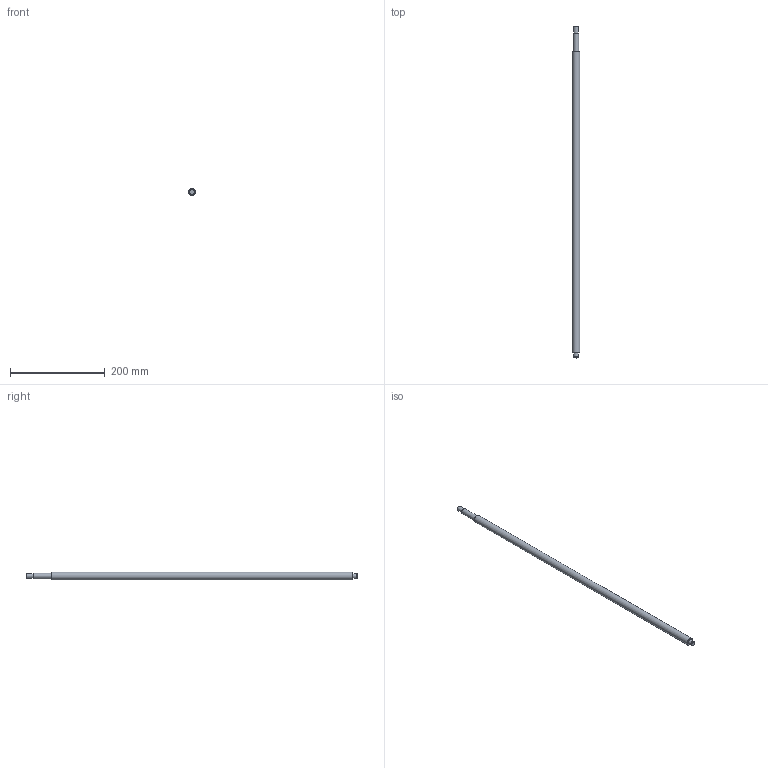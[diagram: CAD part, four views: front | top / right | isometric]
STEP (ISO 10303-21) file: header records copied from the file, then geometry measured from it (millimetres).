
FILE_DESCRIPTION(/* description */ (''),/* implementation_level */ '2;1');
FILE_NAME(/* name */ 'C:\Users\David\Desktop\stepFiles\Profilfuehrung\KUS1605x700.stp',/* time_stamp */ '2018-06-24T15:08:46+02:00',/* author */ ('David'),/* organization */ (''),/* preprocessor_version */ 'ST-DEVELOPER v17',/* originating_system */ 'Autodesk Inventor 2019',/* authorisation */ '');
FILE_SCHEMA (('AUTOMOTIVE_DESIGN { 1 0 10303 214 3 1 1 }'));
Length unit declared in the file: millimetre
Products named in the file (1): SFU1605xvariabel
Bounding box: 16 x 700 x 16 mm (x, y, z)
Volume: 134112.5 mm3; surface area: 34599.6 mm2
Topology: 1 solids, 1 shells, 15 faces, 34 edges, 26 vertices
Faces by surface type: plane 7, cylinder 6, cone 2
Full cylindrical faces by diameter (mm): 9.6 x1, 10 x3, 12 x1, 16 x1
Entity records: 493 total; most frequent: DIRECTION 92, CARTESIAN_POINT 76, ORIENTED_EDGE 68, AXIS2_PLACEMENT_3D 42, EDGE_CURVE 34, CIRCLE 26, VERTEX_POINT 26, EDGE_LOOP 20
